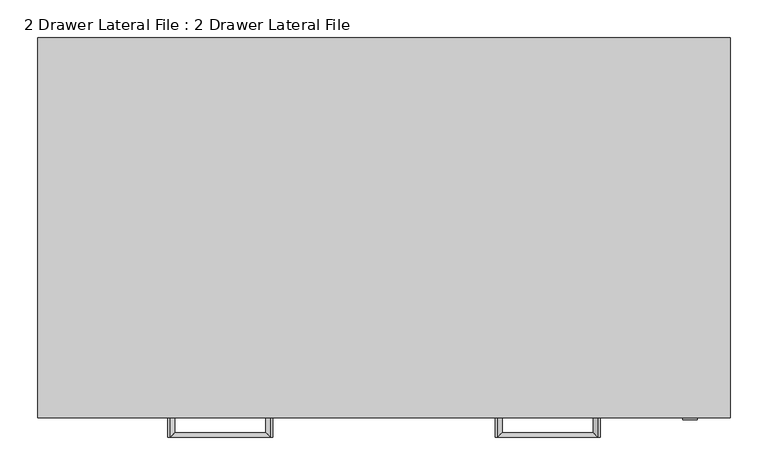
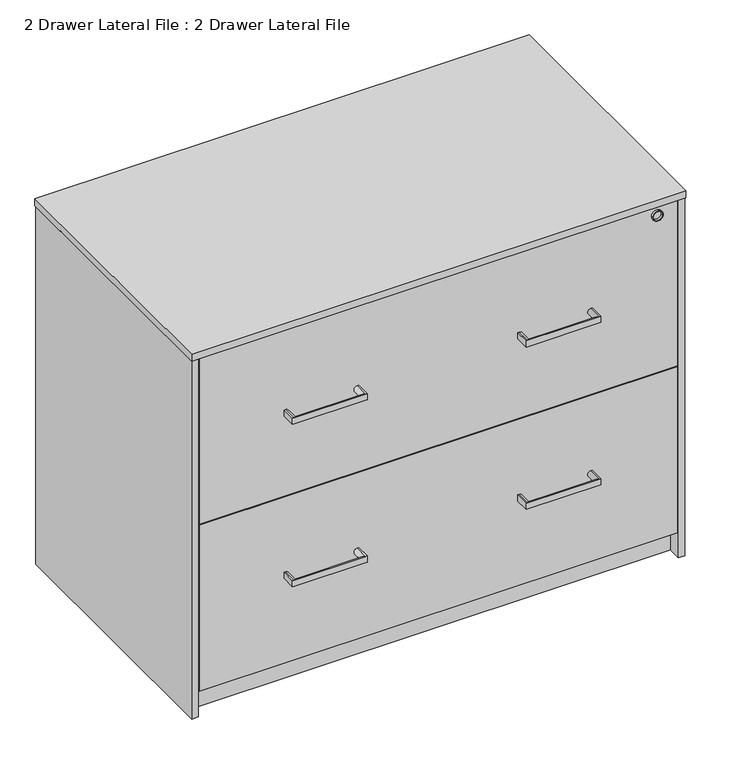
"""IFC4 building model written with IfcOpenShell, lengths in millimetres: furniture geometry, 2 Drawer Lateral File : 2 Drawer Lateral File."""

from ifc_helpers import new_model, si_unit, point, frame, frame_2d, origin, place, context, project, spatial, polyline, circle_curve, ellipse_curve, trimmed, segment, composite_curve, outline, extrude, source, transform, mapped, element, save
from ifc_brep_helpers import plane_surface, cylinder_surface, revolved_surface, advanced_brep


def furniture_2_drawer_lateral_file_2_drawer_lateral_file_50228bcf(model_context):
    return source(origin(), model_context, "Body", "SolidModel", [
        advanced_brep(
        [(410.9979252, -226.5000057, 693.0000053), (415.9259716, -226.5000057, 693.0000053), (413.4619484, -226.5000057, 693.0000053), (410.9979252, -191.5000027, 693.0000053), (415.9259716, -191.5000027, 693.0000053), (411.9979232, -190.5000047, 693.0000053), (414.9259736, -190.5000047, 693.0000053), (413.4619484, -190.5000047, 693.0000053)],
        [
            (0, 1, circle_curve(frame((413.4619484, -226.5000057, 693.0000053), z_axis=(0.0, -1.0, 0.0), x_axis=(1.0, 0.0, 0.0)), 2.4640232)),
            (1, 2),
            (2, 0),
            (1, 0, circle_curve(frame((413.4619484, -226.5000057, 693.0000053), z_axis=(0.0, -1.0, 0.0), x_axis=(1.0, 0.0, 0.0)), 2.4640232)),
            (3, 4, circle_curve(frame((413.4619484, -191.5000027, 693.0000053), z_axis=(0.0, -1.0, 0.0), x_axis=(1.0, 0.0, 0.0)), 2.4640232)),
            (4, 1),
            (0, 3),
            (4, 3, circle_curve(frame((413.4619484, -191.5000027, 693.0000053), z_axis=(0.0, -1.0, 0.0), x_axis=(1.0, 0.0, 0.0)), 2.4640232)),
            (5, 6, circle_curve(frame((413.4619484, -190.5000047, 693.0000053), z_axis=(0.0, -1.0, 0.0), x_axis=(1.0, 0.0, 0.0)), 1.4640252)),
            (6, 4, circle_curve(frame((414.9259736, -191.5000027, 693.0000053), z_axis=(0.0, 0.0, -1.0), x_axis=(1.0, 0.0, 0.0)), 0.999998)),
            (3, 5, circle_curve(frame((411.9979232, -191.5000027, 693.0000053), z_axis=(0.0, 0.0, -1.0), x_axis=(-1.0, 0.0, 0.0)), 0.999998)),
            (6, 5, circle_curve(frame((413.4619484, -190.5000047, 693.0000053), z_axis=(0.0, -1.0, 0.0), x_axis=(1.0, 0.0, 0.0)), 1.4640252)),
            (7, 6),
            (5, 7),
        ],
        [
            plane_surface(frame((413.4619484, -226.5000057, 693.0000053), z_axis=(0.0, -1.0, 0.0), x_axis=(1.0, 0.0, 0.0))),
            cylinder_surface(frame((413.4619484, -185.9131793, 693.0000053), z_axis=(0.0, 1.0, 0.0), x_axis=(1.0, 0.0, 0.0)), 2.4640232),
            revolved_surface(trimmed(ellipse_curve(frame((414.9259736, -191.5000027, 693.0000053), z_axis=(0.0, 0.0, 1.0), x_axis=(1.0, 0.0, 0.0)), 0.999998, 0.999998), [point((415.9259716, -191.5000027, 693.0000053))], [point((414.9259736, -190.5000047, 693.0000053))], True, "CARTESIAN"), (413.4619484, -185.9131793, 693.0000053), (0.0, 1.0, 0.0)),
            plane_surface(frame((413.4619484, -190.5000047, 693.0000053), z_axis=(0.0, 1.0, 0.0), x_axis=(1.0, 0.0, 0.0))),
        ],
        [
            (0, [[1, 2, 3]]),
            (0, [[4, -3, -2]]),
            (1, [[5, 6, -1, 7]]),
            (1, [[8, -7, -4, -6]]),
            (2, [[9, 10, -5, 11]]),
            (2, [[12, -11, -8, -10]]),
            (3, [[13, -9, 14]]),
            (3, [[-14, -12, -13]]),
        ],
    ),
        extrude(outline(composite_curve([segment(trimmed(circle_curve(frame_2d((699.9177106, 406.835383)), 8.0024162), [point((705.4766968, 412.5918001))], [point((694.1612935, 401.2763968))], False, "CARTESIAN"), True, "CONTINUOUS"), segment(polyline([(694.1612935, 401.2763968), (690.0460979, 405.2503151)]), True, "CONTINUOUS"), segment(trimmed(circle_curve(frame_2d((695.6050212, 411.0068644)), 8.0024676), [point((690.0460979, 405.2503151))], [point((701.3615705, 416.5657876))], False, "CARTESIAN"), True, "CONTINUOUS"), segment(polyline([(701.3615705, 416.5657876), (705.4766968, 412.5918001)]), True, "CONTINUOUS")], self_intersect=False)), frame((0.0, -229.5000043, 0.0), z_axis=(0.0, 1.0, 0.0), x_axis=(0.0, 0.0, 1.0)), (0.0, 0.0, 1.0), 2.9999986),
        extrude(outline(composite_curve([segment(trimmed(circle_curve(frame_2d((700.1671371, 393.7000026)), 9.6999893), [point((709.8671265, 393.7000026))], [point((690.4671478, 393.7000026))], False, "CARTESIAN"), True, "CONTINUOUS"), segment(polyline([(690.4671478, 393.7000026), (690.4671478, 419.3000389)]), True, "CONTINUOUS"), segment(trimmed(circle_curve(frame_2d((700.1671371, 419.3000389)), 9.6999893), [point((690.4671478, 419.3000389))], [point((709.8671265, 419.3000389))], False, "CARTESIAN"), True, "CONTINUOUS"), segment(polyline([(709.8671265, 419.3000389), (709.8671265, 393.7000026)]), True, "CONTINUOUS")], self_intersect=False)), frame((0.0, -233.0000041, 0.0), z_axis=(0.0, 1.0, 0.0), x_axis=(0.0, 0.0, 1.0)), (0.0, 0.0, 1.0), 3.4999998),
        extrude(outline(composite_curve([segment(trimmed(circle_curve(frame_2d((700.0000053, 406.5000208)), 9.8671211), [point((700.0000053, 396.6328997))], [point((700.0000053, 416.3671419))], False, "CARTESIAN"), True, "CONTINUOUS"), segment(trimmed(circle_curve(frame_2d((700.0000053, 406.5000208)), 9.8671211), [point((700.0000053, 416.3671419))], [point((700.0000053, 396.6328997))], False, "CARTESIAN"), True, "CONTINUOUS")], self_intersect=False), holes=[composite_curve([segment(trimmed(circle_curve(frame_2d((700.0000053, 406.5000208)), 8.3671211), [point((700.0000053, 398.1328997))], [point((700.0000053, 414.8671419))], True, "CARTESIAN"), True, "CONTINUOUS"), segment(trimmed(circle_curve(frame_2d((700.0000053, 406.5000208)), 8.3671211), [point((700.0000053, 414.8671419))], [point((700.0000053, 398.1328997))], True, "CARTESIAN"), True, "CONTINUOUS")], self_intersect=False)]), frame((0.0, -255.0000046, 0.0), z_axis=(0.0, 1.0, 0.0), x_axis=(0.0, 0.0, 1.0)), (0.0, 0.0, 1.0), 22.0000005),
        advanced_brep(
        [(284.000019, -251.0000041, 558.7500067), (287.0000085, -251.0000041, 558.7500067), (287.0000085, -251.0000041, 546.7499942), (284.000019, -251.0000041, 546.7499942), (150.9999976, -251.0000041, 558.7500067), (150.9999976, -251.0000041, 546.7499942), (148.0000081, -251.0000041, 546.7499942), (148.0000081, -251.0000041, 558.7500067), (284.000019, -278.0000094, 546.7499942), (284.000019, -278.0000094, 558.7500067), (150.9999976, -278.0000094, 546.7499942), (150.9999976, -278.0000094, 558.7500067), (148.0000081, -278.0000094, 558.7500067), (148.0000081, -278.0000094, 546.7499942), (287.0000085, -278.0000094, 546.7499942), (287.0000085, -278.0000094, 558.7500067)],
        [
            (0, 1),
            (1, 2),
            (2, 3),
            (3, 0, circle_curve(frame((284.000019, -251.0000041, 552.7500004), z_axis=(0.0, 1.0, 0.0), x_axis=(-1.0, 0.0, 0.0)), 6.0000062)),
            (4, 5, circle_curve(frame((150.9999976, -251.0000041, 552.7500004), z_axis=(0.0, 1.0, 0.0), x_axis=(1.0, 0.0, 0.0)), 6.0000062)),
            (5, 6),
            (6, 7),
            (7, 4),
            (3, 8),
            (8, 9, ellipse_curve(frame((284.000019, -278.0000094, 552.7500004), z_axis=(0.7071067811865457, 0.7071067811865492, 0.0), x_axis=(-0.7071067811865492, 0.7071067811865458, 0.0)), 8.4852902, 6.0000062)),
            (9, 0),
            (8, 10),
            (10, 11, ellipse_curve(frame((150.9999976, -278.0000094, 552.7500004), z_axis=(0.7071067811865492, -0.7071067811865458, 0.0), x_axis=(0.7071067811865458, 0.7071067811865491, 0.0)), 8.4852902, 6.0000062)),
            (11, 9),
            (10, 5),
            (4, 11),
            (11, 12),
            (12, 13),
            (13, 10),
            (8, 14),
            (14, 15),
            (15, 9),
            (15, 1),
            (14, 2),
            (13, 6),
            (12, 7),
        ],
        [
            plane_surface(frame((278.0000128, -251.0000041, 546.7499942), z_axis=(0.0, 1.0, 0.0), x_axis=(0.0, 0.0, 1.0))),
            cylinder_surface(frame((284.000019, -251.0000041, 552.7500004), z_axis=(0.0, 1.0, 0.0), x_axis=(-1.0, 0.0, 0.0)), 6.0000062),
            cylinder_surface(frame((278.0000128, -278.0000094, 552.7500004), z_axis=(1.0, 0.0, 0.0), x_axis=(0.0, 1.0, 0.0)), 6.0000062),
            cylinder_surface(frame((150.9999976, -272.0000032, 552.7500004), z_axis=(0.0, -1.0, 0.0), x_axis=(1.0, 0.0, 0.0)), 6.0000062),
            plane_surface(frame((284.000019, -278.0000094, 546.7499942), z_axis=(0.0, -1.0, 0.0), x_axis=(-1.0, 0.0, 0.0))),
            plane_surface(frame((284.000019, -278.0000094, 558.7500067), z_axis=(0.0, 0.0, 1.0), x_axis=(0.0, 1.0, 0.0))),
            plane_surface(frame((287.0000085, -278.0000094, 558.7500067), z_axis=(1.0, 0.0, 0.0), x_axis=(0.0, 1.0, 0.0))),
            plane_surface(frame((287.0000085, -278.0000094, 546.7499942), z_axis=(0.0, 0.0, -1.0), x_axis=(0.0, 1.0, 0.0))),
            plane_surface(frame((150.9999976, -278.0000094, 546.7499942), z_axis=(0.0, 0.0, -1.0), x_axis=(0.0, 1.0, 0.0))),
            plane_surface(frame((148.0000081, -278.0000094, 546.7499942), z_axis=(-1.0, 0.0, 0.0), x_axis=(0.0, 1.0, 0.0))),
            plane_surface(frame((148.0000081, -278.0000094, 558.7500067), z_axis=(0.0, 0.0, 1.0), x_axis=(0.0, 1.0, 0.0))),
        ],
        [
            (0, [[1, 2, 3, 4]]),
            (0, [[5, 6, 7, 8]]),
            (1, [[9, 10, 11, -4]]),
            (2, [[12, 13, 14, -10]]),
            (3, [[15, -5, 16, -13]]),
            (4, [[17, 18, 19, -12, 20, 21, 22, -14]]),
            (5, [[23, -1, -11, -22]]),
            (6, [[24, -2, -23, -21]]),
            (7, [[-9, -3, -24, -20]]),
            (8, [[25, -6, -15, -19]]),
            (9, [[26, -7, -25, -18]]),
            (10, [[-16, -8, -26, -17]]),
        ],
    ),
        advanced_brep(
        [(-284.000019, -251.0000041, 558.7500067), (-284.000019, -251.0000041, 546.7499942), (-287.0000085, -251.0000041, 546.7499942), (-287.0000085, -251.0000041, 558.7500067), (-150.9999976, -251.0000041, 558.7500067), (-148.0000081, -251.0000041, 558.7500067), (-148.0000081, -251.0000041, 546.7499942), (-150.9999976, -251.0000041, 546.7499942), (-284.000019, -278.0000094, 558.7500067), (-284.000019, -278.0000094, 546.7499942), (-150.9999976, -278.0000094, 558.7500067), (-150.9999976, -278.0000094, 546.7499942), (-287.0000085, -278.0000094, 558.7500067), (-287.0000085, -278.0000094, 546.7499942), (-148.0000081, -278.0000094, 546.7499942), (-148.0000081, -278.0000094, 558.7500067)],
        [
            (0, 1, circle_curve(frame((-284.000019, -251.0000041, 552.7500004), z_axis=(0.0, 1.0, 0.0), x_axis=(1.0, 0.0, 0.0)), 6.0000062)),
            (1, 2),
            (2, 3),
            (3, 0),
            (4, 5),
            (5, 6),
            (6, 7),
            (7, 4, circle_curve(frame((-150.9999976, -251.0000041, 552.7500004), z_axis=(0.0, 1.0, 0.0), x_axis=(-1.0, 0.0, 0.0)), 6.0000062)),
            (0, 8),
            (8, 9, ellipse_curve(frame((-284.000019, -278.0000094, 552.7500004), z_axis=(-0.7071067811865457, 0.7071067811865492, 0.0), x_axis=(0.7071067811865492, 0.7071067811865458, 0.0)), 8.4852902, 6.0000062)),
            (9, 1),
            (8, 10),
            (10, 11, ellipse_curve(frame((-150.9999976, -278.0000094, 552.7500004), z_axis=(-0.7071067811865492, -0.7071067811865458, 0.0), x_axis=(-0.7071067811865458, 0.7071067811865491, 0.0)), 8.4852902, 6.0000062)),
            (11, 9),
            (10, 4),
            (7, 11),
            (8, 12),
            (12, 13),
            (13, 9),
            (11, 14),
            (14, 15),
            (15, 10),
            (3, 12),
            (2, 13),
            (6, 14),
            (5, 15),
        ],
        [
            plane_surface(frame((-278.0000128, -251.0000041, 546.7499942), z_axis=(0.0, 1.0, 0.0), x_axis=(0.0, 0.0, 1.0))),
            cylinder_surface(frame((-284.000019, -251.0000041, 552.7500004), z_axis=(0.0, 1.0, 0.0), x_axis=(1.0, 0.0, 0.0)), 6.0000062),
            cylinder_surface(frame((-278.0000128, -278.0000094, 552.7500004), z_axis=(-1.0, 0.0, 0.0), x_axis=(0.0, 1.0, 0.0)), 6.0000062),
            cylinder_surface(frame((-150.9999976, -272.0000032, 552.7500004), z_axis=(0.0, -1.0, 0.0), x_axis=(-1.0, 0.0, 0.0)), 6.0000062),
            plane_surface(frame((-284.000019, -278.0000094, 546.7499942), z_axis=(0.0, -1.0, 0.0), x_axis=(1.0, 0.0, 0.0))),
            plane_surface(frame((-284.000019, -278.0000094, 558.7500067), z_axis=(0.0, 0.0, 1.0), x_axis=(0.0, 1.0, 0.0))),
            plane_surface(frame((-287.0000085, -278.0000094, 558.7500067), z_axis=(-1.0, 0.0, 0.0), x_axis=(0.0, 1.0, 0.0))),
            plane_surface(frame((-287.0000085, -278.0000094, 546.7499942), z_axis=(0.0, 0.0, -1.0), x_axis=(0.0, 1.0, 0.0))),
            plane_surface(frame((-150.9999976, -278.0000094, 546.7499942), z_axis=(0.0, 0.0, -1.0), x_axis=(0.0, 1.0, 0.0))),
            plane_surface(frame((-148.0000081, -278.0000094, 546.7499942), z_axis=(1.0, 0.0, 0.0), x_axis=(0.0, 1.0, 0.0))),
            plane_surface(frame((-148.0000081, -278.0000094, 558.7500067), z_axis=(0.0, 0.0, 1.0), x_axis=(0.0, 1.0, 0.0))),
        ],
        [
            (0, [[1, 2, 3, 4]]),
            (0, [[5, 6, 7, 8]]),
            (1, [[-1, 9, 10, 11]]),
            (2, [[-10, 12, 13, 14]]),
            (3, [[-13, 15, -8, 16]]),
            (4, [[-12, 17, 18, 19, -14, 20, 21, 22]]),
            (5, [[-17, -9, -4, 23]]),
            (6, [[-18, -23, -3, 24]]),
            (7, [[-19, -24, -2, -11]]),
            (8, [[-20, -16, -7, 25]]),
            (9, [[-21, -25, -6, 26]]),
            (10, [[-22, -26, -5, -15]]),
        ],
    ),
        advanced_brep(
        [(284.000019, -251.0000041, 239.2500055), (287.0000085, -251.0000041, 239.2500055), (287.0000085, -251.0000041, 227.2499931), (284.000019, -251.0000041, 227.2499931), (150.9999976, -251.0000041, 239.2500055), (150.9999976, -251.0000041, 227.2499931), (148.0000081, -251.0000041, 227.2499931), (148.0000081, -251.0000041, 239.2500055), (284.000019, -278.0000094, 227.2499931), (284.000019, -278.0000094, 239.2500055), (150.9999976, -278.0000094, 227.2499931), (150.9999976, -278.0000094, 239.2500055), (148.0000081, -278.0000094, 239.2500055), (148.0000081, -278.0000094, 227.2499931), (287.0000085, -278.0000094, 227.2499931), (287.0000085, -278.0000094, 239.2500055)],
        [
            (0, 1),
            (1, 2),
            (2, 3),
            (3, 0, circle_curve(frame((284.000019, -251.0000041, 233.2499993), z_axis=(0.0, 1.0, 0.0), x_axis=(-1.0, 0.0, 0.0)), 6.0000062)),
            (4, 5, circle_curve(frame((150.9999976, -251.0000041, 233.2499993), z_axis=(0.0, 1.0, 0.0), x_axis=(1.0, 0.0, 0.0)), 6.0000062)),
            (5, 6),
            (6, 7),
            (7, 4),
            (3, 8),
            (8, 9, ellipse_curve(frame((284.000019, -278.0000094, 233.2499993), z_axis=(0.7071067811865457, 0.7071067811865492, 0.0), x_axis=(-0.7071067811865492, 0.7071067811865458, 0.0)), 8.4852902, 6.0000062)),
            (9, 0),
            (8, 10),
            (10, 11, ellipse_curve(frame((150.9999976, -278.0000094, 233.2499993), z_axis=(0.7071067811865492, -0.7071067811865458, 0.0), x_axis=(0.7071067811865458, 0.7071067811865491, 0.0)), 8.4852902, 6.0000062)),
            (11, 9),
            (10, 5),
            (4, 11),
            (11, 12),
            (12, 13),
            (13, 10),
            (8, 14),
            (14, 15),
            (15, 9),
            (15, 1),
            (14, 2),
            (13, 6),
            (12, 7),
        ],
        [
            plane_surface(frame((278.0000128, -251.0000041, 227.2499931), z_axis=(0.0, 1.0, 0.0), x_axis=(0.0, 0.0, 1.0))),
            cylinder_surface(frame((284.000019, -251.0000041, 233.2499993), z_axis=(0.0, 1.0, 0.0), x_axis=(-1.0, 0.0, 0.0)), 6.0000062),
            cylinder_surface(frame((278.0000128, -278.0000094, 233.2499993), z_axis=(1.0, 0.0, 0.0), x_axis=(0.0, 1.0, 0.0)), 6.0000062),
            cylinder_surface(frame((150.9999976, -272.0000032, 233.2499993), z_axis=(0.0, -1.0, 0.0), x_axis=(1.0, 0.0, 0.0)), 6.0000062),
            plane_surface(frame((284.000019, -278.0000094, 227.2499931), z_axis=(0.0, -1.0, 0.0), x_axis=(-1.0, 0.0, 0.0))),
            plane_surface(frame((284.000019, -278.0000094, 239.2500055), z_axis=(0.0, 0.0, 1.0), x_axis=(0.0, 1.0, 0.0))),
            plane_surface(frame((287.0000085, -278.0000094, 239.2500055), z_axis=(1.0, 0.0, 0.0), x_axis=(0.0, 1.0, 0.0))),
            plane_surface(frame((287.0000085, -278.0000094, 227.2499931), z_axis=(0.0, 0.0, -1.0), x_axis=(0.0, 1.0, 0.0))),
            plane_surface(frame((150.9999976, -278.0000094, 227.2499931), z_axis=(0.0, 0.0, -1.0), x_axis=(0.0, 1.0, 0.0))),
            plane_surface(frame((148.0000081, -278.0000094, 227.2499931), z_axis=(-1.0, 0.0, 0.0), x_axis=(0.0, 1.0, 0.0))),
            plane_surface(frame((148.0000081, -278.0000094, 239.2500055), z_axis=(0.0, 0.0, 1.0), x_axis=(0.0, 1.0, 0.0))),
        ],
        [
            (0, [[1, 2, 3, 4]]),
            (0, [[5, 6, 7, 8]]),
            (1, [[9, 10, 11, -4]]),
            (2, [[12, 13, 14, -10]]),
            (3, [[15, -5, 16, -13]]),
            (4, [[17, 18, 19, -12, 20, 21, 22, -14]]),
            (5, [[23, -1, -11, -22]]),
            (6, [[24, -2, -23, -21]]),
            (7, [[-9, -3, -24, -20]]),
            (8, [[25, -6, -15, -19]]),
            (9, [[26, -7, -25, -18]]),
            (10, [[-16, -8, -26, -17]]),
        ],
    ),
        advanced_brep(
        [(-284.000019, -251.0000041, 239.2500055), (-284.000019, -251.0000041, 227.2499931), (-287.0000085, -251.0000041, 227.2499931), (-287.0000085, -251.0000041, 239.2500055), (-150.9999976, -251.0000041, 239.2500055), (-148.0000081, -251.0000041, 239.2500055), (-148.0000081, -251.0000041, 227.2499931), (-150.9999976, -251.0000041, 227.2499931), (-284.000019, -278.0000094, 239.2500055), (-284.000019, -278.0000094, 227.2499931), (-150.9999976, -278.0000094, 239.2500055), (-150.9999976, -278.0000094, 227.2499931), (-287.0000085, -278.0000094, 239.2500055), (-287.0000085, -278.0000094, 227.2499931), (-148.0000081, -278.0000094, 227.2499931), (-148.0000081, -278.0000094, 239.2500055)],
        [
            (0, 1, circle_curve(frame((-284.000019, -251.0000041, 233.2499993), z_axis=(0.0, 1.0, 0.0), x_axis=(1.0, 0.0, 0.0)), 6.0000062)),
            (1, 2),
            (2, 3),
            (3, 0),
            (4, 5),
            (5, 6),
            (6, 7),
            (7, 4, circle_curve(frame((-150.9999976, -251.0000041, 233.2499993), z_axis=(0.0, 1.0, 0.0), x_axis=(-1.0, 0.0, 0.0)), 6.0000062)),
            (0, 8),
            (8, 9, ellipse_curve(frame((-284.000019, -278.0000094, 233.2499993), z_axis=(-0.7071067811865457, 0.7071067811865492, 0.0), x_axis=(0.7071067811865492, 0.7071067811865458, 0.0)), 8.4852902, 6.0000062)),
            (9, 1),
            (8, 10),
            (10, 11, ellipse_curve(frame((-150.9999976, -278.0000094, 233.2499993), z_axis=(-0.7071067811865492, -0.7071067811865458, 0.0), x_axis=(-0.7071067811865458, 0.7071067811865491, 0.0)), 8.4852902, 6.0000062)),
            (11, 9),
            (10, 4),
            (7, 11),
            (8, 12),
            (12, 13),
            (13, 9),
            (11, 14),
            (14, 15),
            (15, 10),
            (3, 12),
            (2, 13),
            (6, 14),
            (5, 15),
        ],
        [
            plane_surface(frame((-278.0000128, -251.0000041, 227.2499931), z_axis=(0.0, 1.0, 0.0), x_axis=(0.0, 0.0, 1.0))),
            cylinder_surface(frame((-284.000019, -251.0000041, 233.2499993), z_axis=(0.0, 1.0, 0.0), x_axis=(1.0, 0.0, 0.0)), 6.0000062),
            cylinder_surface(frame((-278.0000128, -278.0000094, 233.2499993), z_axis=(-1.0, 0.0, 0.0), x_axis=(0.0, 1.0, 0.0)), 6.0000062),
            cylinder_surface(frame((-150.9999976, -272.0000032, 233.2499993), z_axis=(0.0, -1.0, 0.0), x_axis=(-1.0, 0.0, 0.0)), 6.0000062),
            plane_surface(frame((-284.000019, -278.0000094, 227.2499931), z_axis=(0.0, -1.0, 0.0), x_axis=(1.0, 0.0, 0.0))),
            plane_surface(frame((-284.000019, -278.0000094, 239.2500055), z_axis=(0.0, 0.0, 1.0), x_axis=(0.0, 1.0, 0.0))),
            plane_surface(frame((-287.0000085, -278.0000094, 239.2500055), z_axis=(-1.0, 0.0, 0.0), x_axis=(0.0, 1.0, 0.0))),
            plane_surface(frame((-287.0000085, -278.0000094, 227.2499931), z_axis=(0.0, 0.0, -1.0), x_axis=(0.0, 1.0, 0.0))),
            plane_surface(frame((-150.9999976, -278.0000094, 227.2499931), z_axis=(0.0, 0.0, -1.0), x_axis=(0.0, 1.0, 0.0))),
            plane_surface(frame((-148.0000081, -278.0000094, 227.2499931), z_axis=(1.0, 0.0, 0.0), x_axis=(0.0, 1.0, 0.0))),
            plane_surface(frame((-148.0000081, -278.0000094, 239.2500055), z_axis=(0.0, 0.0, 1.0), x_axis=(0.0, 1.0, 0.0))),
        ],
        [
            (0, [[1, 2, 3, 4]]),
            (0, [[5, 6, 7, 8]]),
            (1, [[-1, 9, 10, 11]]),
            (2, [[-10, 12, 13, 14]]),
            (3, [[-13, 15, -8, 16]]),
            (4, [[-12, 17, 18, 19, -14, 20, 21, 22]]),
            (5, [[-17, -9, -4, 23]]),
            (6, [[-18, -23, -3, 24]]),
            (7, [[-19, -24, -2, -11]]),
            (8, [[-20, -16, -7, 25]]),
            (9, [[-21, -25, -6, 26]]),
            (10, [[-22, -26, -5, -15]]),
        ],
    ),
        advanced_brep(
        [(431.0000121, -195.000005, 35.9938187), (428.1418006, -195.000005, 35.9938187), (433.8582236, -195.000005, 35.9938187), (441.0434443, -195.000005, 0.0), (420.9565799, -195.000005, 0.0), (431.0000121, -195.000005, 0.0), (440.2434443, -195.000005, 11.0000002), (421.7565799, -195.000005, 11.0000002), (421.7565799, -195.000005, 5.9919081), (440.2434443, -195.000005, 5.9919081), (434.8617061, -195.000005, 11.0000002), (427.1383182, -195.000005, 11.0000002), (434.8617061, -195.000005, 34.9903362), (427.1383182, -195.000005, 34.9903362), (441.0434443, -195.000005, 5.9919081), (420.9565799, -195.000005, 5.9919081)],
        [
            (0, 1),
            (1, 2, circle_curve(frame((431.0000121, -195.000005, 35.9938187), z_axis=(0.0, 0.0, 1.0), x_axis=(-1.0, 0.0, 0.0)), 2.8582115)),
            (2, 0),
            (2, 1, circle_curve(frame((431.0000121, -195.000005, 35.9938187), z_axis=(0.0, 0.0, 1.0), x_axis=(-1.0, 0.0, 0.0)), 2.8582115)),
            (3, 4, circle_curve(frame((431.0000121, -195.000005, 0.0), z_axis=(0.0, 0.0, -1.0), x_axis=(-1.0, 0.0, 0.0)), 10.0434322)),
            (4, 5),
            (5, 3),
            (4, 3, circle_curve(frame((431.0000121, -195.000005, 0.0), z_axis=(0.0, 0.0, -1.0), x_axis=(-1.0, 0.0, 0.0)), 10.0434322)),
            (6, 7, circle_curve(frame((431.0000121, -195.000005, 11.0000002), z_axis=(0.0, 0.0, -1.0), x_axis=(-1.0, 0.0, 0.0)), 9.2434322)),
            (7, 8),
            (8, 9, circle_curve(frame((431.0000121, -195.000005, 5.9919081), z_axis=(0.0, 0.0, 1.0), x_axis=(-1.0, 0.0, 0.0)), 9.2434322)),
            (9, 6),
            (7, 6, circle_curve(frame((431.0000121, -195.000005, 11.0000002), z_axis=(0.0, 0.0, -1.0), x_axis=(-1.0, 0.0, 0.0)), 9.2434322)),
            (9, 8, circle_curve(frame((431.0000121, -195.000005, 5.9919081), z_axis=(0.0, 0.0, 1.0), x_axis=(-1.0, 0.0, 0.0)), 9.2434322)),
            (10, 11, circle_curve(frame((431.0000121, -195.000005, 11.0000002), z_axis=(0.0, 0.0, -1.0), x_axis=(-1.0, 0.0, 0.0)), 3.8616939)),
            (11, 7),
            (6, 10),
            (11, 10, circle_curve(frame((431.0000121, -195.000005, 11.0000002), z_axis=(0.0, 0.0, -1.0), x_axis=(-1.0, 0.0, 0.0)), 3.8616939)),
            (12, 13, circle_curve(frame((431.0000121, -195.000005, 34.9903362), z_axis=(0.0, 0.0, -1.0), x_axis=(-1.0, 0.0, 0.0)), 3.8616939)),
            (13, 11),
            (10, 12),
            (13, 12, circle_curve(frame((431.0000121, -195.000005, 34.9903362), z_axis=(0.0, 0.0, -1.0), x_axis=(-1.0, 0.0, 0.0)), 3.8616939)),
            (1, 13),
            (12, 2),
            (14, 15, circle_curve(frame((431.0000121, -195.000005, 5.9919081), z_axis=(0.0, 0.0, -1.0), x_axis=(-1.0, 0.0, 0.0)), 10.0434322)),
            (15, 4, circle_curve(frame((420.9565799, -195.000005, 2.995954), z_axis=(0.0, -1.0, 0.0), x_axis=(-1.0, 0.0, 0.0)), 2.995954)),
            (3, 14, circle_curve(frame((441.0434443, -195.000005, 2.995954), z_axis=(0.0, -1.0, 0.0), x_axis=(1.0, 0.0, 0.0)), 2.995954)),
            (15, 14, circle_curve(frame((431.0000121, -195.000005, 5.9919081), z_axis=(0.0, 0.0, -1.0), x_axis=(-1.0, 0.0, 0.0)), 10.0434322)),
            (8, 15),
            (14, 9),
        ],
        [
            plane_surface(frame((431.0000121, -195.000005, 35.9938187), z_axis=(0.0, 0.0, 1.0), x_axis=(-1.0, 0.0, 0.0))),
            plane_surface(frame((431.0000121, -195.000005, 0.0), z_axis=(0.0, 0.0, -1.0), x_axis=(-1.0, 0.0, 0.0))),
            cylinder_surface(frame((431.0000121, -195.000005, -7.4934292), z_axis=(0.0, 0.0, 1.0), x_axis=(-1.0, 0.0, 0.0)), 9.2434322),
            plane_surface(frame((431.0000121, -195.000005, 11.0000002), z_axis=(0.0, 0.0, 1.0), x_axis=(-1.0, 0.0, 0.0))),
            cylinder_surface(frame((431.0000121, -195.000005, -7.4934292), z_axis=(0.0, 0.0, 1.0), x_axis=(-1.0, 0.0, 0.0)), 3.8616939),
            revolved_surface(polyline([(427.1383182, -195.000005, 34.9903362), (428.1418006, -195.000005, 35.9938187)]), (431.0000121, -195.000005, -7.4934292), (0.0, 0.0, 1.0)),
            revolved_surface(trimmed(ellipse_curve(frame((420.9565799, -195.000005, 2.995954), z_axis=(0.0, 1.0, 0.0), x_axis=(-1.0, 0.0, 0.0)), 2.995954, 2.995954), [point((420.9565799, -195.000005, 0.0))], [point((420.9565799, -195.000005, 5.9919081))], True, "CARTESIAN"), (431.0000121, -195.000005, -7.4934292), (0.0, 0.0, 1.0)),
            plane_surface(frame((431.0000121, -195.000005, 5.9919081), z_axis=(0.0, 0.0, 1.0), x_axis=(-1.0, 0.0, 0.0))),
        ],
        [
            (0, [[1, 2, 3]]),
            (0, [[-3, 4, -1]]),
            (1, [[5, 6, 7]]),
            (1, [[8, -7, -6]]),
            (2, [[9, 10, 11, 12]]),
            (2, [[13, -12, 14, -10]]),
            (3, [[15, 16, -9, 17]]),
            (3, [[18, -17, -13, -16]]),
            (4, [[19, 20, -15, 21]]),
            (4, [[22, -21, -18, -20]]),
            (5, [[-2, 23, -19, 24]]),
            (5, [[-4, -24, -22, -23]]),
            (6, [[25, 26, -5, 27]]),
            (6, [[28, -27, -8, -26]]),
            (7, [[-11, 29, -25, 30]]),
            (7, [[-14, -30, -28, -29]]),
        ],
    ),
        advanced_brep(
        [(-431.0000199, -195.000005, 35.9938187), (-433.8582314, -195.000005, 35.9938187), (-428.1418084, -195.000005, 35.9938187), (-441.0434521, -195.000005, 0.0), (-431.0000199, -195.000005, 0.0), (-420.9565877, -195.000005, 0.0), (-440.2434521, -195.000005, 11.0000002), (-440.2434521, -195.000005, 5.9919081), (-421.7565877, -195.000005, 5.9919081), (-421.7565877, -195.000005, 11.0000002), (-434.8617139, -195.000005, 11.0000002), (-427.138326, -195.000005, 11.0000002), (-434.8617139, -195.000005, 34.9903362), (-427.138326, -195.000005, 34.9903362), (-441.0434521, -195.000005, 5.9919081), (-420.9565877, -195.000005, 5.9919081)],
        [
            (0, 1),
            (1, 2, circle_curve(frame((-431.0000199, -195.000005, 35.9938187), z_axis=(0.0, 0.0, 1.0), x_axis=(1.0, 0.0, 0.0)), 2.8582115)),
            (2, 0),
            (2, 1, circle_curve(frame((-431.0000199, -195.000005, 35.9938187), z_axis=(0.0, 0.0, 1.0), x_axis=(1.0, 0.0, 0.0)), 2.8582115)),
            (3, 4),
            (4, 5),
            (5, 3, circle_curve(frame((-431.0000199, -195.000005, 0.0), z_axis=(0.0, 0.0, -1.0), x_axis=(1.0, 0.0, 0.0)), 10.0434322)),
            (3, 5, circle_curve(frame((-431.0000199, -195.000005, 0.0), z_axis=(0.0, 0.0, -1.0), x_axis=(1.0, 0.0, 0.0)), 10.0434322)),
            (6, 7),
            (7, 8, circle_curve(frame((-431.0000199, -195.000005, 5.9919081), z_axis=(0.0, 0.0, 1.0), x_axis=(1.0, 0.0, 0.0)), 9.2434322)),
            (8, 9),
            (9, 6, circle_curve(frame((-431.0000199, -195.000005, 11.0000002), z_axis=(0.0, 0.0, -1.0), x_axis=(1.0, 0.0, 0.0)), 9.2434322)),
            (8, 7, circle_curve(frame((-431.0000199, -195.000005, 5.9919081), z_axis=(0.0, 0.0, 1.0), x_axis=(1.0, 0.0, 0.0)), 9.2434322)),
            (6, 9, circle_curve(frame((-431.0000199, -195.000005, 11.0000002), z_axis=(0.0, 0.0, -1.0), x_axis=(1.0, 0.0, 0.0)), 9.2434322)),
            (10, 6),
            (9, 11),
            (11, 10, circle_curve(frame((-431.0000199, -195.000005, 11.0000002), z_axis=(0.0, 0.0, -1.0), x_axis=(1.0, 0.0, 0.0)), 3.8616939)),
            (10, 11, circle_curve(frame((-431.0000199, -195.000005, 11.0000002), z_axis=(0.0, 0.0, -1.0), x_axis=(1.0, 0.0, 0.0)), 3.8616939)),
            (12, 10),
            (11, 13),
            (13, 12, circle_curve(frame((-431.0000199, -195.000005, 34.9903362), z_axis=(0.0, 0.0, -1.0), x_axis=(1.0, 0.0, 0.0)), 3.8616939)),
            (12, 13, circle_curve(frame((-431.0000199, -195.000005, 34.9903362), z_axis=(0.0, 0.0, -1.0), x_axis=(1.0, 0.0, 0.0)), 3.8616939)),
            (1, 12),
            (13, 2),
            (14, 3, circle_curve(frame((-441.0434521, -195.000005, 2.995954), z_axis=(0.0, -1.0, 0.0), x_axis=(-1.0, 0.0, 0.0)), 2.995954)),
            (5, 15, circle_curve(frame((-420.9565877, -195.000005, 2.995954), z_axis=(0.0, -1.0, 0.0), x_axis=(1.0, 0.0, 0.0)), 2.995954)),
            (15, 14, circle_curve(frame((-431.0000199, -195.000005, 5.9919081), z_axis=(0.0, 0.0, -1.0), x_axis=(1.0, 0.0, 0.0)), 10.0434322)),
            (14, 15, circle_curve(frame((-431.0000199, -195.000005, 5.9919081), z_axis=(0.0, 0.0, -1.0), x_axis=(1.0, 0.0, 0.0)), 10.0434322)),
            (7, 14),
            (15, 8),
        ],
        [
            plane_surface(frame((-431.0000199, -195.000005, 35.9938187), z_axis=(0.0, 0.0, 1.0), x_axis=(1.0, 0.0, 0.0))),
            plane_surface(frame((-431.0000199, -195.000005, 0.0), z_axis=(0.0, 0.0, -1.0), x_axis=(1.0, 0.0, 0.0))),
            cylinder_surface(frame((-431.0000199, -195.000005, -7.4934292), z_axis=(0.0, 0.0, 1.0), x_axis=(1.0, 0.0, 0.0)), 9.2434322),
            plane_surface(frame((-431.0000199, -195.000005, 11.0000002), z_axis=(0.0, 0.0, 1.0), x_axis=(1.0, 0.0, 0.0))),
            cylinder_surface(frame((-431.0000199, -195.000005, -7.4934292), z_axis=(0.0, 0.0, 1.0), x_axis=(1.0, 0.0, 0.0)), 3.8616939),
            revolved_surface(polyline([(-427.138326, -195.000005, 34.9903362), (-428.1418084, -195.000005, 35.9938187)]), (-431.0000199, -195.000005, -7.4934292), (0.0, 0.0, 1.0)),
            revolved_surface(trimmed(ellipse_curve(frame((-420.9565877, -195.000005, 2.995954), z_axis=(0.0, -1.0, 0.0), x_axis=(1.0, 0.0, 0.0)), 2.995954, 2.995954), [point((-420.9565877, -195.000005, 0.0))], [point((-420.9565877, -195.000005, 5.9919081))], True, "CARTESIAN"), (-431.0000199, -195.000005, -7.4934292), (0.0, 0.0, 1.0)),
            plane_surface(frame((-431.0000199, -195.000005, 5.9919081), z_axis=(0.0, 0.0, 1.0), x_axis=(1.0, 0.0, 0.0))),
        ],
        [
            (0, [[1, 2, 3]]),
            (0, [[-3, 4, -1]]),
            (1, [[5, 6, 7]]),
            (1, [[-6, -5, 8]]),
            (2, [[9, 10, 11, 12]]),
            (2, [[-11, 13, -9, 14]]),
            (3, [[15, -12, 16, 17]]),
            (3, [[-16, -14, -15, 18]]),
            (4, [[19, -17, 20, 21]]),
            (4, [[-20, -18, -19, 22]]),
            (5, [[23, -21, 24, -2]]),
            (5, [[-24, -22, -23, -4]]),
            (6, [[25, -7, 26, 27]]),
            (6, [[-26, -8, -25, 28]]),
            (7, [[29, -27, 30, -10]]),
            (7, [[-30, -28, -29, -13]]),
        ],
    ),
        advanced_brep(
        [(419.0000176, 216.000025, 35.9938187), (421.858229, 216.000025, 35.9938187), (416.1418061, 216.000025, 35.9938187), (429.0434498, 216.000025, 0.0), (419.0000176, 216.000025, 0.0), (408.9565854, 216.000025, 0.0), (428.2434498, 216.000025, 11.0000002), (428.2434498, 216.000025, 5.9919081), (409.7565854, 216.000025, 5.9919081), (409.7565854, 216.000025, 11.0000002), (422.8617115, 216.000025, 11.0000002), (415.1383236, 216.000025, 11.0000002), (422.8617115, 216.000025, 34.9903362), (415.1383236, 216.000025, 34.9903362), (429.0434498, 216.000025, 5.9919081), (408.9565854, 216.000025, 5.9919081)],
        [
            (0, 1),
            (1, 2, circle_curve(frame((419.0000176, 216.000025, 35.9938187), z_axis=(0.0, 0.0, 1.0), x_axis=(-1.0, 0.0, 0.0)), 2.8582115)),
            (2, 0),
            (2, 1, circle_curve(frame((419.0000176, 216.000025, 35.9938187), z_axis=(0.0, 0.0, 1.0), x_axis=(-1.0, 0.0, 0.0)), 2.8582115)),
            (3, 4),
            (4, 5),
            (5, 3, circle_curve(frame((419.0000176, 216.000025, 0.0), z_axis=(0.0, 0.0, -1.0), x_axis=(-1.0, 0.0, 0.0)), 10.0434322)),
            (3, 5, circle_curve(frame((419.0000176, 216.000025, 0.0), z_axis=(0.0, 0.0, -1.0), x_axis=(-1.0, 0.0, 0.0)), 10.0434322)),
            (6, 7),
            (7, 8, circle_curve(frame((419.0000176, 216.000025, 5.9919081), z_axis=(0.0, 0.0, 1.0), x_axis=(-1.0, 0.0, 0.0)), 9.2434322)),
            (8, 9),
            (9, 6, circle_curve(frame((419.0000176, 216.000025, 11.0000002), z_axis=(0.0, 0.0, -1.0), x_axis=(-1.0, 0.0, 0.0)), 9.2434322)),
            (8, 7, circle_curve(frame((419.0000176, 216.000025, 5.9919081), z_axis=(0.0, 0.0, 1.0), x_axis=(-1.0, 0.0, 0.0)), 9.2434322)),
            (6, 9, circle_curve(frame((419.0000176, 216.000025, 11.0000002), z_axis=(0.0, 0.0, -1.0), x_axis=(-1.0, 0.0, 0.0)), 9.2434322)),
            (10, 6),
            (9, 11),
            (11, 10, circle_curve(frame((419.0000176, 216.000025, 11.0000002), z_axis=(0.0, 0.0, -1.0), x_axis=(-1.0, 0.0, 0.0)), 3.8616939)),
            (10, 11, circle_curve(frame((419.0000176, 216.000025, 11.0000002), z_axis=(0.0, 0.0, -1.0), x_axis=(-1.0, 0.0, 0.0)), 3.8616939)),
            (12, 10),
            (11, 13),
            (13, 12, circle_curve(frame((419.0000176, 216.000025, 34.9903362), z_axis=(0.0, 0.0, -1.0), x_axis=(-1.0, 0.0, 0.0)), 3.8616939)),
            (12, 13, circle_curve(frame((419.0000176, 216.000025, 34.9903362), z_axis=(0.0, 0.0, -1.0), x_axis=(-1.0, 0.0, 0.0)), 3.8616939)),
            (1, 12),
            (13, 2),
            (14, 3, circle_curve(frame((429.0434498, 216.000025, 2.995954), z_axis=(0.0, 1.0, 0.0), x_axis=(1.0, 0.0, 0.0)), 2.995954)),
            (5, 15, circle_curve(frame((408.9565854, 216.000025, 2.995954), z_axis=(0.0, 1.0, 0.0), x_axis=(-1.0, 0.0, 0.0)), 2.995954)),
            (15, 14, circle_curve(frame((419.0000176, 216.000025, 5.9919081), z_axis=(0.0, 0.0, -1.0), x_axis=(-1.0, 0.0, 0.0)), 10.0434322)),
            (14, 15, circle_curve(frame((419.0000176, 216.000025, 5.9919081), z_axis=(0.0, 0.0, -1.0), x_axis=(-1.0, 0.0, 0.0)), 10.0434322)),
            (7, 14),
            (15, 8),
        ],
        [
            plane_surface(frame((419.0000176, 216.000025, 35.9938187), z_axis=(0.0, 0.0, 1.0), x_axis=(-1.0, 0.0, 0.0))),
            plane_surface(frame((419.0000176, 216.000025, 0.0), z_axis=(0.0, 0.0, -1.0), x_axis=(-1.0, 0.0, 0.0))),
            cylinder_surface(frame((419.0000176, 216.000025, -7.4934292), z_axis=(0.0, 0.0, 1.0), x_axis=(-1.0, 0.0, 0.0)), 9.2434322),
            plane_surface(frame((419.0000176, 216.000025, 11.0000002), z_axis=(0.0, 0.0, 1.0), x_axis=(-1.0, 0.0, 0.0))),
            cylinder_surface(frame((419.0000176, 216.000025, -7.4934292), z_axis=(0.0, 0.0, 1.0), x_axis=(-1.0, 0.0, 0.0)), 3.8616939),
            revolved_surface(polyline([(415.1383236, 216.000025, 34.9903362), (416.1418061, 216.000025, 35.9938187)]), (419.0000176, 216.000025, -7.4934292), (0.0, 0.0, 1.0)),
            revolved_surface(trimmed(ellipse_curve(frame((408.9565854, 216.000025, 2.995954), z_axis=(0.0, 1.0, 0.0), x_axis=(-1.0, 0.0, 0.0)), 2.995954, 2.995954), [point((408.9565854, 216.000025, 0.0))], [point((408.9565854, 216.000025, 5.9919081))], True, "CARTESIAN"), (419.0000176, 216.000025, -7.4934292), (0.0, 0.0, 1.0)),
            plane_surface(frame((419.0000176, 216.000025, 5.9919081), z_axis=(0.0, 0.0, 1.0), x_axis=(-1.0, 0.0, 0.0))),
        ],
        [
            (0, [[1, 2, 3]]),
            (0, [[-3, 4, -1]]),
            (1, [[5, 6, 7]]),
            (1, [[-6, -5, 8]]),
            (2, [[9, 10, 11, 12]]),
            (2, [[-11, 13, -9, 14]]),
            (3, [[15, -12, 16, 17]]),
            (3, [[-16, -14, -15, 18]]),
            (4, [[19, -17, 20, 21]]),
            (4, [[-20, -18, -19, 22]]),
            (5, [[23, -21, 24, -2]]),
            (5, [[-24, -22, -23, -4]]),
            (6, [[25, -7, 26, 27]]),
            (6, [[-26, -8, -25, 28]]),
            (7, [[29, -27, 30, -10]]),
            (7, [[-30, -28, -29, -13]]),
        ],
    ),
        advanced_brep(
        [(-419.0000178, 216.000025, 35.9938187), (-416.1418063, 216.000025, 35.9938187), (-421.8582293, 216.000025, 35.9938187), (-429.04345, 216.000025, 0.0), (-408.9565856, 216.000025, 0.0), (-419.0000178, 216.000025, 0.0), (-428.24345, 216.000025, 11.0000002), (-409.7565856, 216.000025, 11.0000002), (-409.7565856, 216.000025, 5.9919081), (-428.24345, 216.000025, 5.9919081), (-422.8617117, 216.000025, 11.0000002), (-415.1383238, 216.000025, 11.0000002), (-422.8617117, 216.000025, 34.9903362), (-415.1383238, 216.000025, 34.9903362), (-429.04345, 216.000025, 5.9919081), (-408.9565856, 216.000025, 5.9919081)],
        [
            (0, 1),
            (1, 2, circle_curve(frame((-419.0000178, 216.000025, 35.9938187), z_axis=(0.0, 0.0, 1.0), x_axis=(1.0, 0.0, 0.0)), 2.8582115)),
            (2, 0),
            (2, 1, circle_curve(frame((-419.0000178, 216.000025, 35.9938187), z_axis=(0.0, 0.0, 1.0), x_axis=(1.0, 0.0, 0.0)), 2.8582115)),
            (3, 4, circle_curve(frame((-419.0000178, 216.000025, 0.0), z_axis=(0.0, 0.0, -1.0), x_axis=(1.0, 0.0, 0.0)), 10.0434322)),
            (4, 5),
            (5, 3),
            (4, 3, circle_curve(frame((-419.0000178, 216.000025, 0.0), z_axis=(0.0, 0.0, -1.0), x_axis=(1.0, 0.0, 0.0)), 10.0434322)),
            (6, 7, circle_curve(frame((-419.0000178, 216.000025, 11.0000002), z_axis=(0.0, 0.0, -1.0), x_axis=(1.0, 0.0, 0.0)), 9.2434322)),
            (7, 8),
            (8, 9, circle_curve(frame((-419.0000178, 216.000025, 5.9919081), z_axis=(0.0, 0.0, 1.0), x_axis=(1.0, 0.0, 0.0)), 9.2434322)),
            (9, 6),
            (7, 6, circle_curve(frame((-419.0000178, 216.000025, 11.0000002), z_axis=(0.0, 0.0, -1.0), x_axis=(1.0, 0.0, 0.0)), 9.2434322)),
            (9, 8, circle_curve(frame((-419.0000178, 216.000025, 5.9919081), z_axis=(0.0, 0.0, 1.0), x_axis=(1.0, 0.0, 0.0)), 9.2434322)),
            (10, 11, circle_curve(frame((-419.0000178, 216.000025, 11.0000002), z_axis=(0.0, 0.0, -1.0), x_axis=(1.0, 0.0, 0.0)), 3.8616939)),
            (11, 7),
            (6, 10),
            (11, 10, circle_curve(frame((-419.0000178, 216.000025, 11.0000002), z_axis=(0.0, 0.0, -1.0), x_axis=(1.0, 0.0, 0.0)), 3.8616939)),
            (12, 13, circle_curve(frame((-419.0000178, 216.000025, 34.9903362), z_axis=(0.0, 0.0, -1.0), x_axis=(1.0, 0.0, 0.0)), 3.8616939)),
            (13, 11),
            (10, 12),
            (13, 12, circle_curve(frame((-419.0000178, 216.000025, 34.9903362), z_axis=(0.0, 0.0, -1.0), x_axis=(1.0, 0.0, 0.0)), 3.8616939)),
            (1, 13),
            (12, 2),
            (14, 15, circle_curve(frame((-419.0000178, 216.000025, 5.9919081), z_axis=(0.0, 0.0, -1.0), x_axis=(1.0, 0.0, 0.0)), 10.0434322)),
            (15, 4, circle_curve(frame((-408.9565856, 216.000025, 2.995954), z_axis=(0.0, 1.0, 0.0), x_axis=(1.0, 0.0, 0.0)), 2.995954)),
            (3, 14, circle_curve(frame((-429.04345, 216.000025, 2.995954), z_axis=(0.0, 1.0, 0.0), x_axis=(-1.0, 0.0, 0.0)), 2.995954)),
            (15, 14, circle_curve(frame((-419.0000178, 216.000025, 5.9919081), z_axis=(0.0, 0.0, -1.0), x_axis=(1.0, 0.0, 0.0)), 10.0434322)),
            (8, 15),
            (14, 9),
        ],
        [
            plane_surface(frame((-419.0000178, 216.000025, 35.9938187), z_axis=(0.0, 0.0, 1.0), x_axis=(1.0, 0.0, 0.0))),
            plane_surface(frame((-419.0000178, 216.000025, 0.0), z_axis=(0.0, 0.0, -1.0), x_axis=(1.0, 0.0, 0.0))),
            cylinder_surface(frame((-419.0000178, 216.000025, -7.4934292), z_axis=(0.0, 0.0, 1.0), x_axis=(1.0, 0.0, 0.0)), 9.2434322),
            plane_surface(frame((-419.0000178, 216.000025, 11.0000002), z_axis=(0.0, 0.0, 1.0), x_axis=(1.0, 0.0, 0.0))),
            cylinder_surface(frame((-419.0000178, 216.000025, -7.4934292), z_axis=(0.0, 0.0, 1.0), x_axis=(1.0, 0.0, 0.0)), 3.8616939),
            revolved_surface(polyline([(-415.1383238, 216.000025, 34.9903362), (-416.1418063, 216.000025, 35.9938187)]), (-419.0000178, 216.000025, -7.4934292), (0.0, 0.0, 1.0)),
            revolved_surface(trimmed(ellipse_curve(frame((-408.9565856, 216.000025, 2.995954), z_axis=(0.0, -1.0, 0.0), x_axis=(1.0, 0.0, 0.0)), 2.995954, 2.995954), [point((-408.9565856, 216.000025, 0.0))], [point((-408.9565856, 216.000025, 5.9919081))], True, "CARTESIAN"), (-419.0000178, 216.000025, -7.4934292), (0.0, 0.0, 1.0)),
            plane_surface(frame((-419.0000178, 216.000025, 5.9919081), z_axis=(0.0, 0.0, 1.0), x_axis=(1.0, 0.0, 0.0))),
        ],
        [
            (0, [[1, 2, 3]]),
            (0, [[-3, 4, -1]]),
            (1, [[5, 6, 7]]),
            (1, [[8, -7, -6]]),
            (2, [[9, 10, 11, 12]]),
            (2, [[13, -12, 14, -10]]),
            (3, [[15, 16, -9, 17]]),
            (3, [[18, -17, -13, -16]]),
            (4, [[19, 20, -15, 21]]),
            (4, [[22, -21, -18, -20]]),
            (5, [[-2, 23, -19, 24]]),
            (5, [[-4, -24, -22, -23]]),
            (6, [[25, 26, -5, 27]]),
            (6, [[28, -27, -8, -26]]),
            (7, [[-11, 29, -25, 30]]),
            (7, [[-14, -30, -28, -29]]),
        ],
    ),
        extrude(outline(polyline([(445.2500221, -251.0000041), (-445.2500221, -251.0000041), (-445.2500221, -233.0000041), (445.2500221, -233.0000041), (445.2500221, -251.0000041)])), frame((0.0, 0.0, 61.0000018), z_axis=(0.0, 0.0, 1.0), x_axis=(1.0, 0.0, 0.0)), (0.0, 0.0, 1.0), 326.4999991),
        extrude(outline(polyline([(-435.0000166, 231.5000055), (-403.000019, 231.5000055), (-403.000019, 200.0000387), (-435.0000166, 200.0000387), (-435.0000166, 231.5000055)])), frame((0.0, 0.0, 11.0000002), z_axis=(0.0, 0.0, 1.0), x_axis=(1.0, 0.0, 0.0)), (0.0, 0.0, 1.0), 50.0000015),
        extrude(outline(polyline([(403.0000185, 231.5000055), (435.0000166, 231.5000055), (435.0000166, 200.0000387), (403.0000185, 200.0000387), (403.0000185, 231.5000055)])), frame((0.0, 0.0, 11.0000002), z_axis=(0.0, 0.0, 1.0), x_axis=(1.0, 0.0, 0.0)), (0.0, 0.0, 1.0), 50.0000015),
        extrude(outline(polyline([(447.0000166, -179.000005), (447.0000166, -211.0000049), (415.0000076, -211.0000049), (415.0000076, -179.000005), (447.0000166, -179.000005)])), frame((0.0, 0.0, 11.0000002), z_axis=(0.0, 0.0, 1.0), x_axis=(1.0, 0.0, 0.0)), (0.0, 0.0, 1.0), 50.0000015),
        extrude(outline(polyline([(-447.0000166, -179.000005), (-415.0000232, -179.000005), (-415.0000232, -211.0000049), (-447.0000166, -211.0000049), (-447.0000166, -179.000005)])), frame((0.0, 0.0, 11.0000002), z_axis=(0.0, 0.0, 1.0), x_axis=(1.0, 0.0, 0.0)), (0.0, 0.0, 1.0), 50.0000015),
        extrude(outline(polyline([(445.2500221, -251.0000041), (-445.2500221, -251.0000041), (-445.2500221, -233.0000041), (445.2500221, -233.0000041), (445.2500221, -251.0000041)])), frame((0.0, 0.0, 389.5000009), z_axis=(0.0, 0.0, 1.0), x_axis=(1.0, 0.0, 0.0)), (0.0, 0.0, 1.0), 326.4999991),
        extrude(outline(polyline([(61.0000018, -445.2500221), (61.0000018, 445.2500221), (716.0, 445.2500221), (716.0, 435.0000166), (78.9999977, 435.0000166), (78.9999977, -435.0000166), (716.0, -435.0000166), (716.0, -445.2500221), (61.0000018, -445.2500221)])), frame((0.0, -229.0000048, 0.0), z_axis=(0.0, 1.0, 0.0), x_axis=(0.0, 0.0, 1.0)), (0.0, 0.0, 1.0), 461.0000161),
        extrude(outline(polyline([(447.0000166, -211.0000049), (447.0000166, -225.5000049), (-447.0000166, -225.5000049), (-447.0000166, -211.0000049), (447.0000166, -211.0000049)])), frame((0.0, 0.0, 11.0000002), z_axis=(0.0, 0.0, 1.0), x_axis=(1.0, 0.0, 0.0)), (0.0, 0.0, 1.0), 50.0000015),
        extrude(outline(polyline([(-447.0000166, 250.9999866), (-447.0000166, -251.0000041), (-459.0000166, -251.0000041), (-459.0000166, 250.9999866), (-447.0000166, 250.9999866)])), frame((0.0, 0.0, 11.0000002), z_axis=(0.0, 0.0, 1.0), x_axis=(1.0, 0.0, 0.0)), (0.0, 0.0, 1.0), 704.9999998),
        extrude(outline(polyline([(459.0000166, 250.9999866), (459.0000166, -251.0000041), (447.0000166, -251.0000041), (447.0000166, 250.9999866), (459.0000166, 250.9999866)])), frame((0.0, 0.0, 11.0000002), z_axis=(0.0, 0.0, 1.0), x_axis=(1.0, 0.0, 0.0)), (0.0, 0.0, 1.0), 704.9999998),
        extrude(outline(polyline([(447.0000166, 250.0000113), (447.0000166, 232.0000113), (-447.0000166, 232.0000113), (-447.0000166, 250.0000113), (447.0000166, 250.0000113)])), frame((0.0, 0.0, 11.0000002), z_axis=(0.0, 0.0, 1.0), x_axis=(1.0, 0.0, 0.0)), (0.0, 0.0, 1.0), 704.9999998),
        extrude(outline(polyline([(460.0, 252.5), (460.0, -252.5), (-460.0, -252.5), (-460.0, 252.5), (460.0, 252.5)])), frame((0.0, 0.0, 716.0), z_axis=(0.0, 0.0, 1.0), x_axis=(1.0, 0.0, 0.0)), (0.0, 0.0, 1.0), 14.0),
    ])


if __name__ == "__main__":
    model = new_model("IFC4")
    model_context = context("Model", 3, world=origin())
    ifc_project = project(units=[si_unit("LENGTHUNIT", "METRE", prefix="MILLI")], contexts=[model_context])
    site = spatial("IfcSite", under=ifc_project)
    building = spatial("IfcBuilding", under=site)
    placement = place(None, origin())
    furniture_2_drawer_lateral_file_2_drawer_lateral_file_shape = furniture_2_drawer_lateral_file_2_drawer_lateral_file_50228bcf(model_context)
    element("IfcFurniture", 1, ObjectType="2 Drawer Lateral File : 2 Drawer Lateral File", at=placement, inside=building, context=model_context, shape_type="MappedRepresentation", body=[
        mapped(furniture_2_drawer_lateral_file_2_drawer_lateral_file_shape, transform((0.0, 0.0, 0.0), x_axis=(1.0, 0.0, 0.0), y_axis=(0.0, 1.0, 0.0), z_axis=(0.0, 0.0, 1.0))),
    ])
    save(model, "model.ifc")
